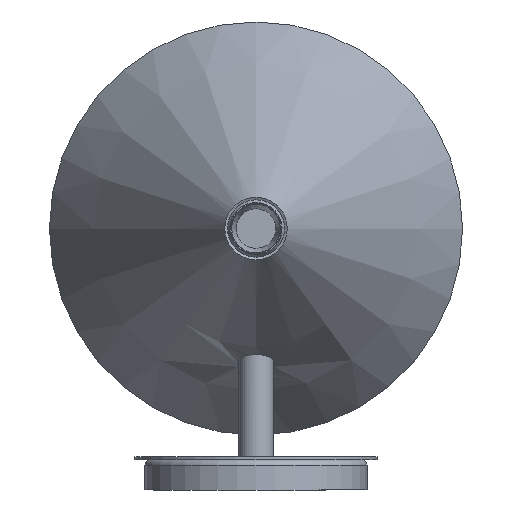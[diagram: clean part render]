
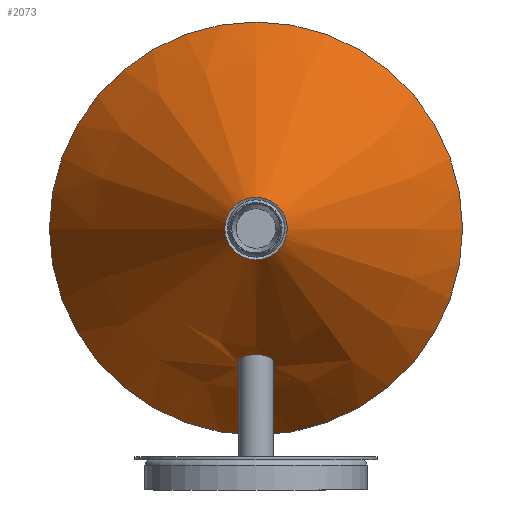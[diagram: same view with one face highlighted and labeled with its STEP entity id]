
A CAD part, front view. The second image highlights one B-rep face of the part: STEP entity #2073.
In plain terms, the highlighted conical face has half-angle 30.1 degrees and reference radius 58.894 mm.
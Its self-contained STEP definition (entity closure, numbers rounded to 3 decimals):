
#138=FACE_BOUND('',#326,.T.);
#154=B_SPLINE_CURVE_WITH_KNOTS('',3,(#3188,#3189,#3190,#3191,#3192,#3193,
#3194,#3195,#3196,#3197,#3198,#3199,#3200,#3201,#3202,#3203,#3204,#3205,
#3206,#3207,#3208,#3209,#3210,#3211,#3212,#3213,#3214,#3215,#3216,#3217,
#3218),.UNSPECIFIED.,.T.,.F.,(4,1,1,1,1,1,1,1,1,1,1,1,1,1,1,1,1,1,1,1,1,
1,1,1,1,1,1,1,4),(0.,0.209,0.419,0.628,
0.838,1.047,1.257,1.466,1.676,
1.955,2.025,2.234,2.374,2.513,
2.653,2.793,3.072,3.351,3.631,
3.91,4.189,4.329,4.468,4.748,
5.027,5.236,5.446,5.655,5.865),
 .UNSPECIFIED.);
#197=FACE_OUTER_BOUND('',#325,.T.);
#325=EDGE_LOOP('',(#1305,#1306,#1307,#1308,#1309,#1310));
#326=EDGE_LOOP('',(#1311));
#469=LINE('',#3182,#564);
#564=VECTOR('',#2523,57.596);
#659=CIRCLE('',#2237,15.491);
#660=CIRCLE('',#2238,102.298);
#661=CIRCLE('',#2239,102.298);
#662=CIRCLE('',#2240,15.491);
#805=VERTEX_POINT('',#3178);
#806=VERTEX_POINT('',#3179);
#807=VERTEX_POINT('',#3181);
#808=VERTEX_POINT('',#3183);
#809=VERTEX_POINT('',#3187);
#1005=EDGE_CURVE('',#805,#806,#659,.T.);
#1006=EDGE_CURVE('',#806,#807,#469,.T.);
#1007=EDGE_CURVE('',#808,#807,#660,.T.);
#1008=EDGE_CURVE('',#807,#808,#661,.T.);
#1009=EDGE_CURVE('',#806,#805,#662,.T.);
#1010=EDGE_CURVE('',#809,#809,#154,.T.);
#1305=ORIENTED_EDGE('',*,*,#1005,.T.);
#1306=ORIENTED_EDGE('',*,*,#1006,.T.);
#1307=ORIENTED_EDGE('',*,*,#1007,.F.);
#1308=ORIENTED_EDGE('',*,*,#1008,.F.);
#1309=ORIENTED_EDGE('',*,*,#1006,.F.);
#1310=ORIENTED_EDGE('',*,*,#1009,.T.);
#1311=ORIENTED_EDGE('',*,*,#1010,.F.);
#1905=CONICAL_SURFACE('',#2236,58.894,0.525);
#2073=ADVANCED_FACE('',(#197,#138),#1905,.T.);
#2236=AXIS2_PLACEMENT_3D('',#3177,#2519,#2520);
#2237=AXIS2_PLACEMENT_3D('',#3180,#2521,#2522);
#2238=AXIS2_PLACEMENT_3D('',#3184,#2524,#2525);
#2239=AXIS2_PLACEMENT_3D('',#3185,#2526,#2527);
#2240=AXIS2_PLACEMENT_3D('',#3186,#2528,#2529);
#2519=DIRECTION('center_axis',(0.,1.,0.));
#2520=DIRECTION('ref_axis',(-1.,0.,0.));
#2521=DIRECTION('center_axis',(0.,1.,0.));
#2522=DIRECTION('ref_axis',(1.,0.,0.));
#2523=DIRECTION('',(0.502,0.865,0.));
#2524=DIRECTION('center_axis',(0.,1.,0.));
#2525=DIRECTION('ref_axis',(1.,0.,0.));
#2526=DIRECTION('center_axis',(0.,1.,0.));
#2527=DIRECTION('ref_axis',(1.,0.,0.));
#2528=DIRECTION('center_axis',(0.,1.,0.));
#2529=DIRECTION('ref_axis',(1.,0.,0.));
#3177=CARTESIAN_POINT('Origin',(0.,-15.877,0.));
#3178=CARTESIAN_POINT('',(-15.491,-90.752,0.));
#3179=CARTESIAN_POINT('',(15.491,-90.752,0.));
#3180=CARTESIAN_POINT('Origin',(0.,-90.752,0.));
#3181=CARTESIAN_POINT('',(102.298,58.998,0.));
#3182=CARTESIAN_POINT('',(58.894,-15.877,0.));
#3183=CARTESIAN_POINT('',(-102.298,58.998,0.));
#3184=CARTESIAN_POINT('Origin',(0.,58.998,0.));
#3185=CARTESIAN_POINT('Origin',(0.,58.998,0.));
#3186=CARTESIAN_POINT('Origin',(0.,-90.752,0.));
#3187=CARTESIAN_POINT('',(9.149,-1.46,-66.627));
#3188=CARTESIAN_POINT('Ctrl Pts',(9.149,-1.46,-66.627));
#3189=CARTESIAN_POINT('Ctrl Pts',(9.101,-2.064,-66.28));
#3190=CARTESIAN_POINT('Ctrl Pts',(8.872,-3.328,-65.572));
#3191=CARTESIAN_POINT('Ctrl Pts',(8.077,-5.2,-64.583));
#3192=CARTESIAN_POINT('Ctrl Pts',(6.835,-6.875,-63.751));
#3193=CARTESIAN_POINT('Ctrl Pts',(5.302,-8.199,-63.13));
#3194=CARTESIAN_POINT('Ctrl Pts',(3.318,-9.248,-62.662));
#3195=CARTESIAN_POINT('Ctrl Pts',(1.097,-9.773,-62.436));
#3196=CARTESIAN_POINT('Ctrl Pts',(-1.051,-9.778,-62.434));
#3197=CARTESIAN_POINT('Ctrl Pts',(-3.522,-9.208,-62.679));
#3198=CARTESIAN_POINT('Ctrl Pts',(-5.253,-8.207,-63.127));
#3199=CARTESIAN_POINT('Ctrl Pts',(-6.624,-7.039,-63.677));
#3200=CARTESIAN_POINT('Ctrl Pts',(-7.532,-5.999,-64.182));
#3201=CARTESIAN_POINT('Ctrl Pts',(-8.332,-4.613,-64.892));
#3202=CARTESIAN_POINT('Ctrl Pts',(-8.819,-3.365,-65.557));
#3203=CARTESIAN_POINT('Ctrl Pts',(-9.104,-2.099,-66.259));
#3204=CARTESIAN_POINT('Ctrl Pts',(-9.234,-0.491,
-67.181));
#3205=CARTESIAN_POINT('Ctrl Pts',(-8.983,1.627,-68.456));
#3206=CARTESIAN_POINT('Ctrl Pts',(-7.904,4.031,-69.995));
#3207=CARTESIAN_POINT('Ctrl Pts',(-6.286,5.967,-71.29));
#3208=CARTESIAN_POINT('Ctrl Pts',(-3.957,7.535,-72.374));
#3209=CARTESIAN_POINT('Ctrl Pts',(-1.571,8.204,-72.848));
#3210=CARTESIAN_POINT('Ctrl Pts',(0.334,8.277,-72.9));
#3211=CARTESIAN_POINT('Ctrl Pts',(2.249,8.067,-72.751));
#3212=CARTESIAN_POINT('Ctrl Pts',(4.564,7.22,-72.154));
#3213=CARTESIAN_POINT('Ctrl Pts',(6.545,5.681,-71.097));
#3214=CARTESIAN_POINT('Ctrl Pts',(7.844,4.032,-70.));
#3215=CARTESIAN_POINT('Ctrl Pts',(8.718,2.27,-68.866));
#3216=CARTESIAN_POINT('Ctrl Pts',(9.164,0.401,-67.713));
#3217=CARTESIAN_POINT('Ctrl Pts',(9.196,-0.856,-66.973));
#3218=CARTESIAN_POINT('Ctrl Pts',(9.149,-1.46,-66.627));
